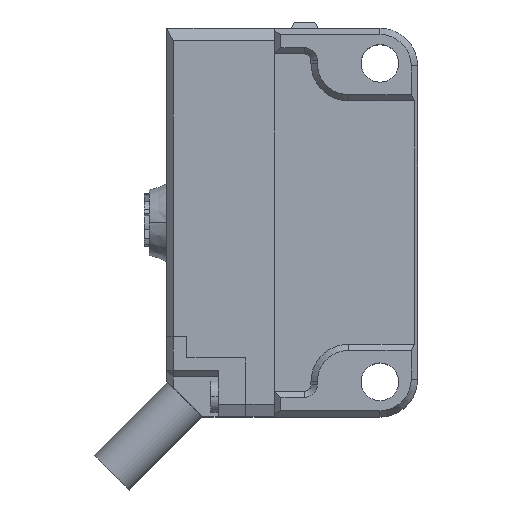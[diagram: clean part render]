
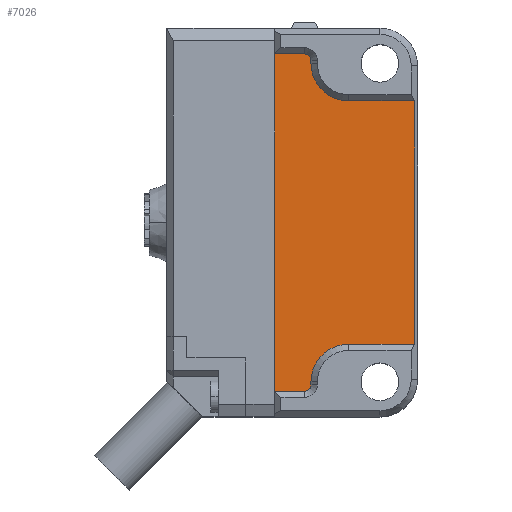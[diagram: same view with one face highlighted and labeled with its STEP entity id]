
A CAD part, top view. The second image highlights one B-rep face of the part: STEP entity #7026.
In plain terms, the highlighted planar face has unit normal (0, 0, 1).
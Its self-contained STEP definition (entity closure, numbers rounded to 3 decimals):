
#33 = ORIENTED_EDGE ( 'NONE', *, *, #4111, .T. ) ;
#55 = CIRCLE ( 'NONE', #535, 3. ) ;
#77 = VECTOR ( 'NONE', #6751, 1000. ) ;
#140 = DIRECTION ( 'NONE',  ( 0., 1., 0. ) ) ;
#224 = DIRECTION ( 'NONE',  ( 0., 0., 1. ) ) ;
#268 = EDGE_CURVE ( 'NONE', #3652, #511, #821, .T. ) ;
#348 = ORIENTED_EDGE ( 'NONE', *, *, #5891, .T. ) ;
#350 = CARTESIAN_POINT ( 'NONE',  ( -8.5, -12.7, 6. ) ) ;
#374 = EDGE_CURVE ( 'NONE', #5399, #5666, #4158, .T. ) ;
#511 = VERTEX_POINT ( 'NONE', #1108 ) ;
#520 = FACE_OUTER_BOUND ( 'NONE', #6308, .T. ) ;
#535 = AXIS2_PLACEMENT_3D ( 'NONE', #1969, #5586, #5927 ) ;
#539 = EDGE_CURVE ( 'NONE', #4028, #2929, #6402, .T. ) ;
#626 = ORIENTED_EDGE ( 'NONE', *, *, #6580, .T. ) ;
#650 = CARTESIAN_POINT ( 'NONE',  ( -5.5, -9.7, 6. ) ) ;
#821 = CIRCLE ( 'NONE', #5341, 3. ) ;
#893 = ORIENTED_EDGE ( 'NONE', *, *, #6106, .T. ) ;
#971 = CARTESIAN_POINT ( 'NONE',  ( 0., -14.5, 6. ) ) ;
#1108 = CARTESIAN_POINT ( 'NONE',  ( -8.5, 12.7, 6. ) ) ;
#1143 = LINE ( 'NONE', #5693, #6845 ) ;
#1181 = LINE ( 'NONE', #2851, #4361 ) ;
#1189 = ORIENTED_EDGE ( 'NONE', *, *, #3628, .T. ) ;
#1683 = DIRECTION ( 'NONE',  ( 0., 0., 1. ) ) ;
#1685 = ORIENTED_EDGE ( 'NONE', *, *, #268, .T. ) ;
#1711 = CARTESIAN_POINT ( 'NONE',  ( -0.225, 9.7, 6. ) ) ;
#1935 = VERTEX_POINT ( 'NONE', #650 ) ;
#1969 = CARTESIAN_POINT ( 'NONE',  ( -5.5, -12.7, 6. ) ) ;
#2007 = CARTESIAN_POINT ( 'NONE',  ( 0., -13.45, 6. ) ) ;
#2133 = PLANE ( 'NONE',  #5193 ) ;
#2146 = EDGE_CURVE ( 'NONE', #5666, #6563, #3301, .T. ) ;
#2207 = CARTESIAN_POINT ( 'NONE',  ( -8.5, -14.5, 6. ) ) ;
#2231 = VECTOR ( 'NONE', #3355, 1000. ) ;
#2278 = DIRECTION ( 'NONE',  ( 1., 0., 0. ) ) ;
#2308 = CARTESIAN_POINT ( 'NONE',  ( -8.5, -14.5, 6. ) ) ;
#2401 = DIRECTION ( 'NONE',  ( 0., 1., 0. ) ) ;
#2476 = LINE ( 'NONE', #5832, #6132 ) ;
#2489 = DIRECTION ( 'NONE',  ( 0., 0., -1. ) ) ;
#2498 = VERTEX_POINT ( 'NONE', #6901 ) ;
#2701 = ORIENTED_EDGE ( 'NONE', *, *, #7125, .T. ) ;
#2851 = CARTESIAN_POINT ( 'NONE',  ( -11.4, -14.5, 6. ) ) ;
#2878 = VERTEX_POINT ( 'NONE', #1711 ) ;
#2899 = CARTESIAN_POINT ( 'NONE',  ( -8.5, 12.95, 6. ) ) ;
#2929 = VERTEX_POINT ( 'NONE', #6849 ) ;
#3080 = CARTESIAN_POINT ( 'NONE',  ( -5.5, 12.7, 6. ) ) ;
#3146 = DIRECTION ( 'NONE',  ( 1., 0., 0. ) ) ;
#3217 = DIRECTION ( 'NONE',  ( 0., 0., 1. ) ) ;
#3301 = CIRCLE ( 'NONE', #5091, 0.5 ) ;
#3355 = DIRECTION ( 'NONE',  ( -1., 0., 0. ) ) ;
#3365 = CARTESIAN_POINT ( 'NONE',  ( -5.5, 9.7, 6. ) ) ;
#3548 = AXIS2_PLACEMENT_3D ( 'NONE', #4200, #224, #5882 ) ;
#3628 = EDGE_CURVE ( 'NONE', #5698, #5399, #1181, .T. ) ;
#3652 = VERTEX_POINT ( 'NONE', #3365 ) ;
#3712 = ORIENTED_EDGE ( 'NONE', *, *, #374, .T. ) ;
#3737 = DIRECTION ( 'NONE',  ( 1., 0., 0. ) ) ;
#4012 = ORIENTED_EDGE ( 'NONE', *, *, #4037, .T. ) ;
#4028 = VERTEX_POINT ( 'NONE', #2899 ) ;
#4037 = EDGE_CURVE ( 'NONE', #2878, #3652, #5008, .T. ) ;
#4111 = EDGE_CURVE ( 'NONE', #511, #4028, #7304, .T. ) ;
#4158 = LINE ( 'NONE', #2007, #4742 ) ;
#4200 = CARTESIAN_POINT ( 'NONE',  ( -9., 12.95, 6. ) ) ;
#4361 = VECTOR ( 'NONE', #6766, 1000. ) ;
#4480 = CARTESIAN_POINT ( 'NONE',  ( -8.5, -12.95, 6. ) ) ;
#4519 = CARTESIAN_POINT ( 'NONE',  ( 0., -9.7, 6. ) ) ;
#4619 = LINE ( 'NONE', #2308, #6381 ) ;
#4742 = VECTOR ( 'NONE', #5392, 1000. ) ;
#4886 = ORIENTED_EDGE ( 'NONE', *, *, #5004, .T. ) ;
#5004 = EDGE_CURVE ( 'NONE', #2498, #2878, #2476, .T. ) ;
#5008 = LINE ( 'NONE', #7273, #2231 ) ;
#5009 = DIRECTION ( 'NONE',  ( 1., 0., 0. ) ) ;
#5073 = CARTESIAN_POINT ( 'NONE',  ( -9., -13.45, 6. ) ) ;
#5091 = AXIS2_PLACEMENT_3D ( 'NONE', #6128, #3217, #3737 ) ;
#5128 = DIRECTION ( 'NONE',  ( -1., 0., 0. ) ) ;
#5193 = AXIS2_PLACEMENT_3D ( 'NONE', #971, #1683, #2278 ) ;
#5254 = ORIENTED_EDGE ( 'NONE', *, *, #2146, .T. ) ;
#5341 = AXIS2_PLACEMENT_3D ( 'NONE', #3080, #2489, #3146 ) ;
#5392 = DIRECTION ( 'NONE',  ( 1., 0., 0. ) ) ;
#5399 = VERTEX_POINT ( 'NONE', #5892 ) ;
#5586 = DIRECTION ( 'NONE',  ( 0., 0., -1. ) ) ;
#5666 = VERTEX_POINT ( 'NONE', #5073 ) ;
#5693 = CARTESIAN_POINT ( 'NONE',  ( 0., 13.45, 6. ) ) ;
#5698 = VERTEX_POINT ( 'NONE', #7299 ) ;
#5832 = CARTESIAN_POINT ( 'NONE',  ( -0.225, -14.5, 6. ) ) ;
#5882 = DIRECTION ( 'NONE',  ( 1., 0., 0. ) ) ;
#5891 = EDGE_CURVE ( 'NONE', #6434, #1935, #55, .T. ) ;
#5892 = CARTESIAN_POINT ( 'NONE',  ( -11.4, -13.45, 6. ) ) ;
#5927 = DIRECTION ( 'NONE',  ( 1., 0., 0. ) ) ;
#6106 = EDGE_CURVE ( 'NONE', #2929, #5698, #1143, .T. ) ;
#6128 = CARTESIAN_POINT ( 'NONE',  ( -9., -12.95, 6. ) ) ;
#6132 = VECTOR ( 'NONE', #2401, 1000. ) ;
#6172 = ORIENTED_EDGE ( 'NONE', *, *, #539, .T. ) ;
#6308 = EDGE_LOOP ( 'NONE', ( #893, #1189, #3712, #5254, #2701, #348, #626, #4886, #4012, #1685, #33, #6172 ) ) ;
#6381 = VECTOR ( 'NONE', #140, 1000. ) ;
#6402 = CIRCLE ( 'NONE', #3548, 0.5 ) ;
#6434 = VERTEX_POINT ( 'NONE', #350 ) ;
#6563 = VERTEX_POINT ( 'NONE', #4480 ) ;
#6580 = EDGE_CURVE ( 'NONE', #1935, #2498, #6819, .T. ) ;
#6751 = DIRECTION ( 'NONE',  ( 0., 1., 0. ) ) ;
#6766 = DIRECTION ( 'NONE',  ( 0., -1., 0. ) ) ;
#6819 = LINE ( 'NONE', #4519, #7211 ) ;
#6845 = VECTOR ( 'NONE', #5128, 1000. ) ;
#6849 = CARTESIAN_POINT ( 'NONE',  ( -9., 13.45, 6. ) ) ;
#6901 = CARTESIAN_POINT ( 'NONE',  ( -0.225, -9.7, 6. ) ) ;
#7026 = ADVANCED_FACE ( 'NONE', ( #520 ), #2133, .T. ) ;
#7125 = EDGE_CURVE ( 'NONE', #6563, #6434, #4619, .T. ) ;
#7211 = VECTOR ( 'NONE', #5009, 1000. ) ;
#7273 = CARTESIAN_POINT ( 'NONE',  ( 0., 9.7, 6. ) ) ;
#7299 = CARTESIAN_POINT ( 'NONE',  ( -11.4, 13.45, 6. ) ) ;
#7304 = LINE ( 'NONE', #2207, #77 ) ;
